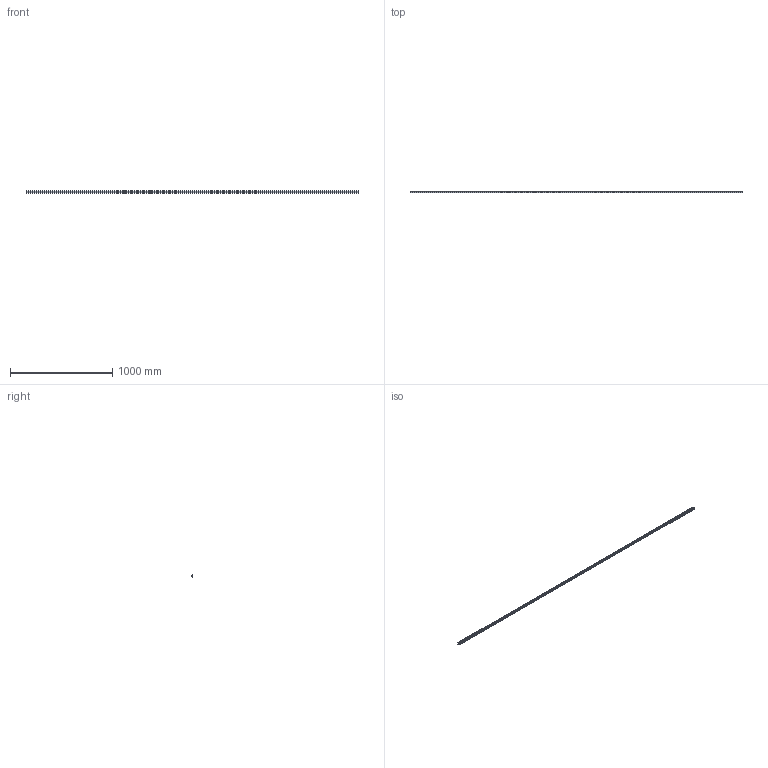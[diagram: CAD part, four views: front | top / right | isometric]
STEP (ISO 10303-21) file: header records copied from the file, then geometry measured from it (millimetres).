
FILE_DESCRIPTION (( 'STEP AP203' ), '1' );
FILE_NAME ('L1018.20R-3240.step', '2023-08-06T09:16:35', ( '' ), ( '' ), 'SwSTEP 2.0', 'SolidWorks 2019', '' );
FILE_SCHEMA (( 'CONFIG_CONTROL_DESIGN' ));
Length unit declared in the file: millimetre
Products named in the file (1): L1018.20R-3240
Bounding box: 3240 x 19.3 x 20 mm (x, y, z)
Volume: 1027495.6 mm3; surface area: 274080.5 mm2
Topology: 1 solids, 1 shells, 515 faces, 1161 edges, 648 vertices
Faces by surface type: cylinder 219, cone 216, plane 80
Entity records: 13634 total; most frequent: DIRECTION 2631, CARTESIAN_POINT 2217, ORIENTED_EDGE 2106, AXIS2_PLACEMENT_3D 1062, EDGE_CURVE 1053, VERTEX_POINT 648, EDGE_LOOP 623, CIRCLE 546
